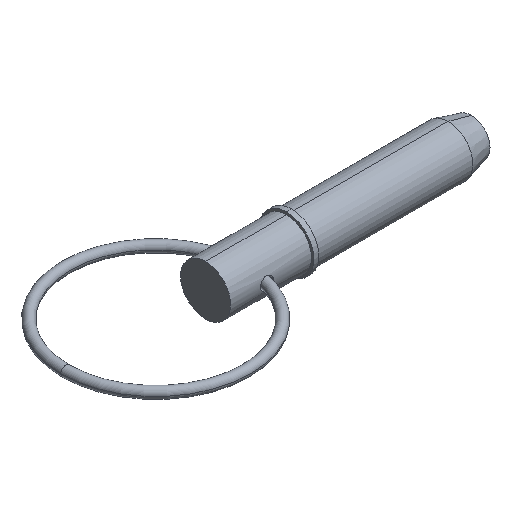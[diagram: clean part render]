
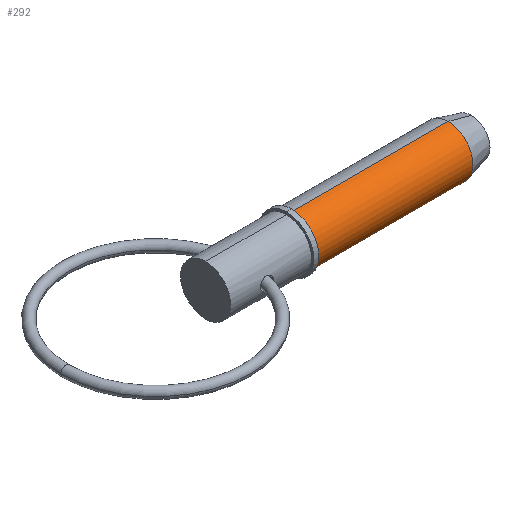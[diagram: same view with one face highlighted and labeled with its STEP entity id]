
A CAD part, isometric view. The second image highlights one B-rep face of the part: STEP entity #292.
In plain terms, the highlighted cylindrical face has radius 7.94 mm (diameter 15.88 mm), a partial arc.
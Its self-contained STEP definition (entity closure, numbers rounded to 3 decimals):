
#14 = DIRECTION ( 'NONE',  ( 1., 0., 0. ) ) ;
#66 = DIRECTION ( 'NONE',  ( 1., 0., 0. ) ) ;
#73 = CARTESIAN_POINT ( 'NONE',  ( 77.052, 0., -7.94 ) ) ;
#143 = VERTEX_POINT ( 'NONE', #614 ) ;
#166 = CARTESIAN_POINT ( 'NONE',  ( 0., 0., 0. ) ) ;
#198 = DIRECTION ( 'NONE',  ( 0., 0., -1. ) ) ;
#199 = EDGE_CURVE ( 'NONE', #248, #853, #518, .T. ) ;
#203 = AXIS2_PLACEMENT_3D ( 'NONE', #1047, #634, #198 ) ;
#206 = AXIS2_PLACEMENT_3D ( 'NONE', #900, #14, #467 ) ;
#234 = DIRECTION ( 'NONE',  ( 1., 0., 0. ) ) ;
#239 = DIRECTION ( 'NONE',  ( 0., 0., -1. ) ) ;
#248 = VERTEX_POINT ( 'NONE', #296 ) ;
#282 = EDGE_CURVE ( 'NONE', #853, #485, #673, .T. ) ;
#292 = ADVANCED_FACE ( 'NONE', ( #568 ), #937, .T. ) ;
#296 = CARTESIAN_POINT ( 'NONE',  ( 27.31, 0., 7.94 ) ) ;
#343 = AXIS2_PLACEMENT_3D ( 'NONE', #166, #234, #239 ) ;
#360 = CIRCLE ( 'NONE', #206, 7.94 ) ;
#425 = VECTOR ( 'NONE', #66, 1000. ) ;
#464 = EDGE_CURVE ( 'NONE', #248, #143, #360, .T. ) ;
#467 = DIRECTION ( 'NONE',  ( 0., 0., -1. ) ) ;
#485 = VERTEX_POINT ( 'NONE', #73 ) ;
#518 = LINE ( 'NONE', #867, #425 ) ;
#568 = FACE_OUTER_BOUND ( 'NONE', #682, .T. ) ;
#571 = ORIENTED_EDGE ( 'NONE', *, *, #998, .T. ) ;
#584 = CARTESIAN_POINT ( 'NONE',  ( 0., 0., -7.94 ) ) ;
#605 = ORIENTED_EDGE ( 'NONE', *, *, #199, .F. ) ;
#614 = CARTESIAN_POINT ( 'NONE',  ( 27.31, 0., -7.94 ) ) ;
#634 = DIRECTION ( 'NONE',  ( 1., 0., 0. ) ) ;
#673 = CIRCLE ( 'NONE', #203, 7.94 ) ;
#677 = VECTOR ( 'NONE', #834, 1000. ) ;
#682 = EDGE_LOOP ( 'NONE', ( #605, #995, #571, #968 ) ) ;
#683 = LINE ( 'NONE', #584, #677 ) ;
#834 = DIRECTION ( 'NONE',  ( 1., 0., 0. ) ) ;
#853 = VERTEX_POINT ( 'NONE', #965 ) ;
#867 = CARTESIAN_POINT ( 'NONE',  ( 0., 0., 7.94 ) ) ;
#900 = CARTESIAN_POINT ( 'NONE',  ( 27.31, 0., 0. ) ) ;
#937 = CYLINDRICAL_SURFACE ( 'NONE', #343, 7.94 ) ;
#965 = CARTESIAN_POINT ( 'NONE',  ( 77.052, 0., 7.94 ) ) ;
#968 = ORIENTED_EDGE ( 'NONE', *, *, #282, .F. ) ;
#995 = ORIENTED_EDGE ( 'NONE', *, *, #464, .T. ) ;
#998 = EDGE_CURVE ( 'NONE', #143, #485, #683, .T. ) ;
#1047 = CARTESIAN_POINT ( 'NONE',  ( 77.052, 0., 0. ) ) ;
